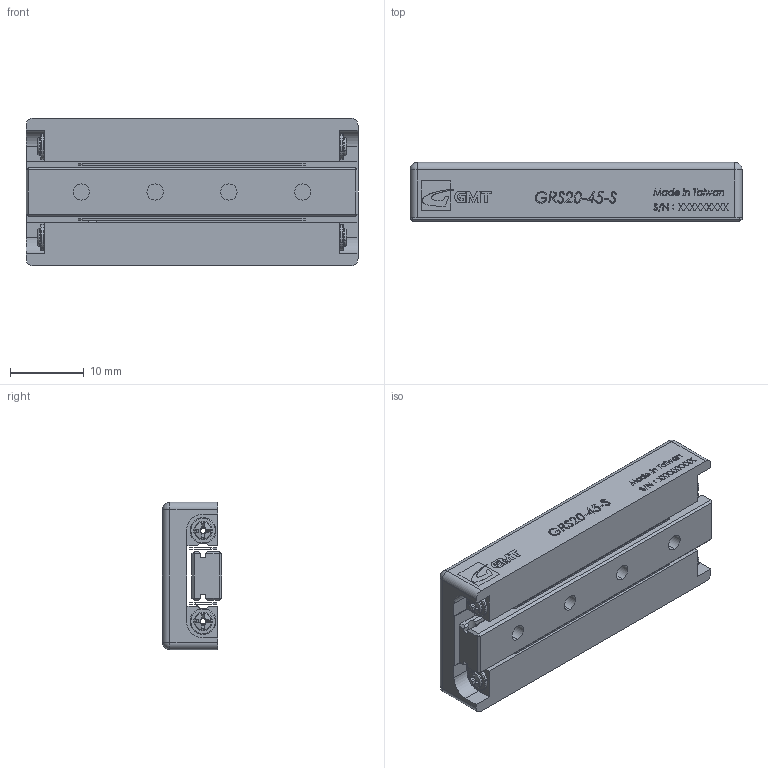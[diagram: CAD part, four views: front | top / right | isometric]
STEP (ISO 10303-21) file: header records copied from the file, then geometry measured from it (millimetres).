
FILE_DESCRIPTION (( 'STEP AP203' ), '1' );
FILE_NAME ('GRS20-45-S.STEP', '2013-12-20T08:31:48', ( '' ), ( '' ), 'SwSTEP 2.0', 'SolidWorks 2013', '' );
FILE_SCHEMA (( 'CONFIG_CONTROL_DESIGN' ));
Length unit declared in the file: millimetre
Products named in the file (1): GRS20-45-S
Bounding box: 45 x 8 x 20 mm (x, y, z)
Surface area: 4523.3 mm2 (no closed solid volume)
Topology: 0 solids, 13 shells, 470 faces, 2200 edges, 1670 vertices
Faces by surface type: plane 303, cylinder 65, bspline 50, torus 24, cone 16, sphere 12
Entity records: 27297 total; most frequent: CARTESIAN_POINT 10651, ORIENTED_EDGE 3164, DIRECTION 3022, EDGE_CURVE 2196, VERTEX_POINT 1670, VECTOR 1452, LINE 1452, AXIS2_PLACEMENT_3D 785
